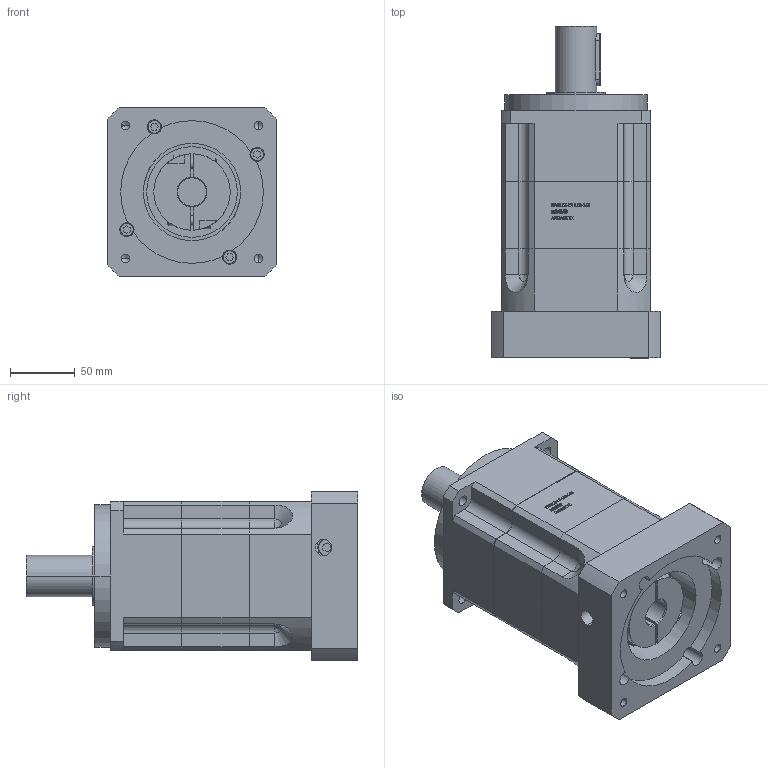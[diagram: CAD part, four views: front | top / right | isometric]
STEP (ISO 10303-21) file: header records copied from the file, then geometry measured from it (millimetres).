
FILE_DESCRIPTION (( 'STEP AP203' ), '1' );
FILE_NAME ('PAG115-L2 22-110-145.STEP', '2022-07-28T09:31:12', ( 'Windows User' ), ( 'P R C' ), 'SwSTEP 2.0', 'SolidWorks 2016', '' );
FILE_SCHEMA (( 'CONFIG_CONTROL_DESIGN' ));
Length unit declared in the file: millimetre
Products named in the file (6): PAG115-130WZ01_珨极宒 梓袧; GB／T1096-2003普通平键A型10×40; GB／T70．1-2000内六角圆柱头螺钉M6_M6x20L; GB／T70．1-2000内六角圆柱头螺钉M8×25; PAG115-L2 22-110-145; PAG115-CQ-22RZ_L2
Assembly tree (9 placements, depth 2):
  PAG115-L2 22-110-145
    PAG115-CQ-22RZ_L2
    PAG115-130WZ01_珨极宒 梓袧
    GB／T1096-2003普通平键A型10×40
    GB／T70．1-2000内六角圆柱头螺钉M6_M6x20L  x4
    GB／T70．1-2000内六角圆柱头螺钉M8×25  x2
Bounding box: 130 x 256 x 130 mm (x, y, z)
Volume: 2298558.7 mm3; surface area: 221311.4 mm2
Topology: 9 solids, 9 shells, 983 faces, 2529 edges, 1649 vertices
Faces by surface type: plane 605, cylinder 172, bspline 168, cone 38
Entity records: 33457 total; most frequent: CARTESIAN_POINT 11368, ORIENTED_EDGE 4654, DIRECTION 3911, EDGE_CURVE 2327, LINE 1675, VECTOR 1675, VERTEX_POINT 1521, AXIS2_PLACEMENT_3D 1118
